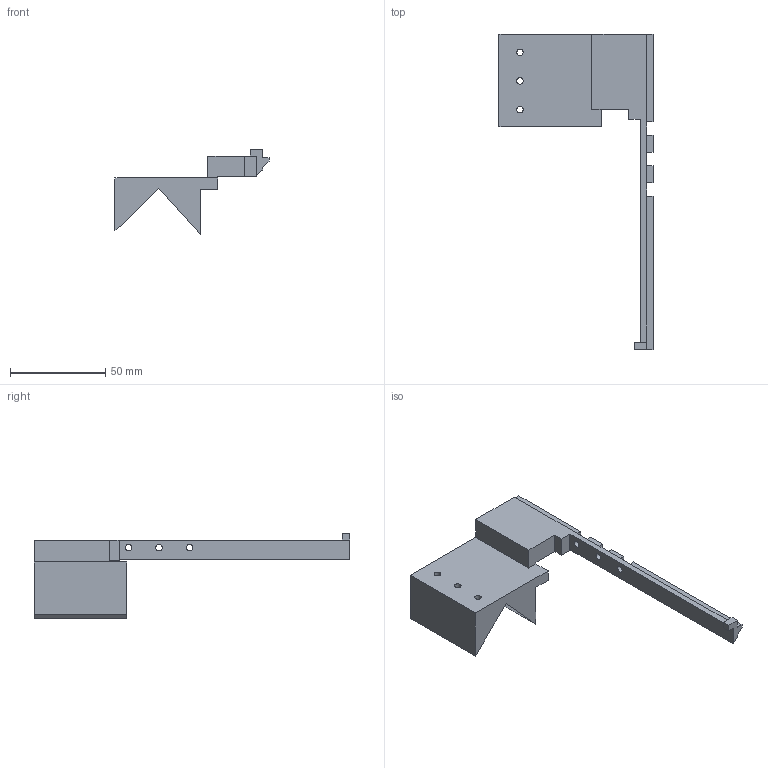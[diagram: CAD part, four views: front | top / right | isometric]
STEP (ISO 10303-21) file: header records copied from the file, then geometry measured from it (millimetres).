
FILE_DESCRIPTION(('Open CASCADE Model'),'2;1');
FILE_NAME('Open CASCADE Shape Model','2026-10-16T05:11:25',('Author'),( 'Open CASCADE'),'Open CASCADE STEP processor 7.9','Open CASCADE 7.9' ,'Unknown');
FILE_SCHEMA(('AUTOMOTIVE_DESIGN { 1 0 10303 214 1 1 1 1 }'));
Length unit declared in the file: millimetre
Products named in the file (1): Open CASCADE STEP translator 7.9 14
Bounding box: 80.85 x 165.6 x 44.71 mm (x, y, z)
Volume: 56868.3 mm3; surface area: 18533.8 mm2
Topology: 1 solids, 1 shells, 59 faces, 169 edges, 112 vertices
Faces by surface type: plane 53, cylinder 6
Full cylindrical faces by diameter (mm): 3.4 x6
Entity records: 4133 total; most frequent: CARTESIAN_POINT 898, DIRECTION 534, LINE 384, VECTOR 384, ORIENTED_EDGE 338, PCURVE 338, DEFINITIONAL_REPRESENTATION 338, EDGE_CURVE 169
